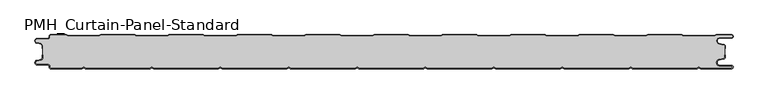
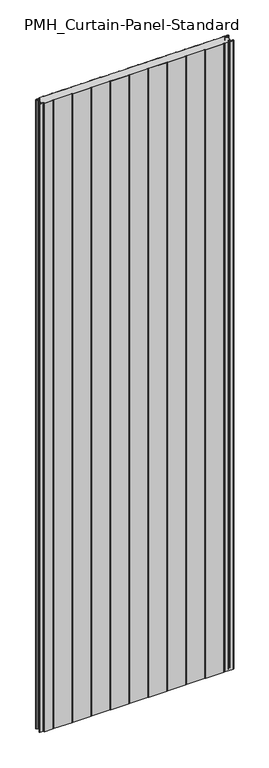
"""IFC4 building model written with IfcOpenShell, lengths in millimetres: plate geometry, PMH_Curtain-Panel-Standard : ACH_PMH_Acoustic-Sectioning-Panel_50M."""

from ifc_helpers import new_model, si_unit, point, frame_2d, origin, origin_with_axes, place, context, project, spatial, polyline, circle_curve, trimmed, segment, composite_curve, outline, extrude, source, transform, mapped, element, save


def pmh_curtain_panel_standard_05a95652(model_context):
    return source(origin(), model_context, "Body", "SweptSolid", [
        extrude(outline(composite_curve([segment(polyline([(-500.0, 15.878557), (-500.0, 20.0), (-499.2, 20.0), (-499.2, 15.878557)]), True, "CONTINUOUS"), segment(trimmed(circle_curve(frame_2d((-502.0, 15.878557)), 2.8), [point((-499.2, 15.878557))], [point((-501.370137, 13.1503208))], False, "CARTESIAN"), True, "CONTINUOUS"), segment(polyline([(-501.370137, 13.1503208), (-507.529863, 11.728236)]), True, "CONTINUOUS"), segment(trimmed(circle_curve(frame_2d((-506.9, 9.0)), 2.8), [point((-507.529863, 11.728236))], [point((-506.9, 6.2))], True, "CARTESIAN"), True, "CONTINUOUS"), segment(polyline([(-506.9, 6.2), (-491.4, 6.2)]), True, "CONTINUOUS"), segment(trimmed(circle_curve(frame_2d((-491.4, 3.4)), 2.8), [point((-491.4, 6.2))], [point((-488.6, 3.4))], False, "CARTESIAN"), True, "CONTINUOUS"), segment(polyline([(-488.6, 3.4), (-488.6, 2.0)]), True, "CONTINUOUS"), segment(trimmed(circle_curve(frame_2d((-487.4, 2.0)), 1.2), [point((-488.6, 2.0))], [point((-487.4, 0.8))], True, "CARTESIAN"), True, "CONTINUOUS"), segment(polyline([(-487.4, 0.8), (-442.3143588, 0.8), (-439.4, 2.482606), (-436.4856412, 0.8), (-342.3143588, 0.8), (-339.4, 2.482606), (-336.4856412, 0.8), (-242.3143588, 0.8), (-239.4, 2.482606), (-236.4856412, 0.8), (-142.3143588, 0.8), (-139.4, 2.482606), (-136.4856412, 0.8), (-42.3143588, 0.8), (-39.4, 2.482606), (-36.4856412, 0.8), (57.6856412, 0.8), (60.6, 2.482606), (63.5143588, 0.8), (157.6856412, 0.8), (160.6, 2.482606), (163.5143588, 0.8), (257.6856412, 0.8), (260.6, 2.482606), (263.5143588, 0.8), (357.6856412, 0.8), (360.6, 2.482606), (363.5143588, 0.8), (457.6856412, 0.8), (460.6, 2.482606), (463.5143588, 0.8), (508.1, 0.8)]), True, "CONTINUOUS"), segment(trimmed(circle_curve(frame_2d((508.1, 2.5)), 1.7), [point((508.1, 0.8))], [point((508.1, 4.2))], True, "CARTESIAN"), True, "CONTINUOUS"), segment(polyline([(508.1, 4.2), (491.1, 4.2)]), True, "CONTINUOUS"), segment(trimmed(circle_curve(frame_2d((491.1, 9.0)), 4.8), [point((491.1, 4.2))], [point((490.2664884, 13.7270771))], False, "CARTESIAN"), True, "CONTINUOUS"), segment(polyline([(490.2664884, 13.7270771), (496.7125669, 14.8636953)]), True, "CONTINUOUS"), segment(trimmed(circle_curve(frame_2d((496.4, 16.6363492)), 1.8), [point((496.7125669, 14.8636953))], [point((498.2, 16.6363492))], True, "CARTESIAN"), True, "CONTINUOUS"), segment(polyline([(498.2, 16.6363492), (498.2, 20.0), (499.0, 20.0), (499.0, 16.6363492)]), True, "CONTINUOUS"), segment(trimmed(circle_curve(frame_2d((496.4, 16.6363492)), 2.6), [point((499.0, 16.6363492))], [point((496.8514855, 14.0758491))], False, "CARTESIAN"), True, "CONTINUOUS"), segment(polyline([(496.8514855, 14.0758491), (490.405407, 12.939231)]), True, "CONTINUOUS"), segment(trimmed(circle_curve(frame_2d((491.1, 9.0)), 4.0), [point((490.405407, 12.939231))], [point((491.1, 5.0))], True, "CARTESIAN"), True, "CONTINUOUS"), segment(polyline([(491.1, 5.0), (508.1, 5.0)]), True, "CONTINUOUS"), segment(trimmed(circle_curve(frame_2d((508.1, 2.5)), 2.5), [point((508.1, 5.0))], [point((508.1, 0.0))], False, "CARTESIAN"), True, "CONTINUOUS"), segment(polyline([(508.1, 0.0), (463.2999995, 0.0), (460.6, 1.5588455), (457.9000005, 0.0), (363.2999995, 0.0), (360.6, 1.5588455), (357.9000005, 0.0), (263.2999995, 0.0), (260.6, 1.5588455), (257.9000005, 0.0), (163.2999995, 0.0), (160.6, 1.5588455), (157.9000005, 0.0), (63.2999995, 0.0), (60.6, 1.5588455), (57.9000005, 0.0), (-36.7000005, 0.0), (-39.4, 1.5588455), (-42.0999995, 0.0), (-136.7000005, 0.0), (-139.4, 1.5588455), (-142.0999995, 0.0), (-236.7000005, 0.0), (-239.4, 1.5588455), (-242.0999995, 0.0), (-336.7000005, 0.0), (-339.4, 1.5588455), (-342.0999995, 0.0), (-436.7000005, 0.0), (-439.4, 1.5588455), (-442.0999995, 0.0), (-487.4, 0.0)]), True, "CONTINUOUS"), segment(trimmed(circle_curve(frame_2d((-487.4, 2.0)), 2.0), [point((-487.4, 0.0))], [point((-489.4, 2.0))], False, "CARTESIAN"), True, "CONTINUOUS"), segment(polyline([(-489.4, 2.0), (-489.4, 3.4)]), True, "CONTINUOUS"), segment(trimmed(circle_curve(frame_2d((-491.4, 3.4)), 2.0), [point((-489.4, 3.4))], [point((-491.4, 5.4))], True, "CARTESIAN"), True, "CONTINUOUS"), segment(polyline([(-491.4, 5.4), (-506.9, 5.4)]), True, "CONTINUOUS"), segment(trimmed(circle_curve(frame_2d((-506.9, 9.0)), 3.6), [point((-506.9, 5.4))], [point((-507.7098239, 12.5077322))], False, "CARTESIAN"), True, "CONTINUOUS"), segment(polyline([(-507.7098239, 12.5077322), (-501.5500979, 13.929817)]), True, "CONTINUOUS"), segment(trimmed(circle_curve(frame_2d((-502.0, 15.878557)), 2.0), [point((-501.5500979, 13.929817))], [point((-500.0, 15.878557))], True, "CARTESIAN"), True, "CONTINUOUS")], self_intersect=False)), origin_with_axes(), (0.0, 0.0, 1.0), 3500.0),
        extrude(outline(composite_curve([segment(trimmed(circle_curve(frame_2d((-502.0, 34.121443)), 2.8), [point((-499.2, 34.121443))], [point((-501.370137, 36.8496792))], True, "CARTESIAN"), True, "CONTINUOUS"), segment(polyline([(-501.370137, 36.8496792), (-507.529863, 38.271764)]), True, "CONTINUOUS"), segment(trimmed(circle_curve(frame_2d((-506.9, 41.0)), 2.7999998), [point((-507.529863, 38.271764))], [point((-506.9, 43.7999998))], False, "CARTESIAN"), True, "CONTINUOUS"), segment(polyline([(-506.9, 43.7999998), (-491.4, 43.7999998)]), True, "CONTINUOUS"), segment(trimmed(circle_curve(frame_2d((-491.4, 46.5999998)), 2.8), [point((-491.4, 43.7999998))], [point((-488.6, 46.5999998))], True, "CARTESIAN"), True, "CONTINUOUS"), segment(polyline([(-488.6, 46.5999998), (-488.6, 48.0)]), True, "CONTINUOUS"), segment(trimmed(circle_curve(frame_2d((-487.4, 48.0)), 1.2), [point((-488.6, 48.0))], [point((-487.4, 49.2))], False, "CARTESIAN"), True, "CONTINUOUS"), segment(polyline([(-487.4, 49.2), (-464.6143592, 49.2), (-462.0162816, 47.7), (-416.7875654, 47.7), (-414.1894878, 49.2), (-364.6143592, 49.2), (-362.0162816, 47.7), (-316.7875654, 47.7), (-314.1894878, 49.2), (-264.6143592, 49.2), (-262.0162816, 47.7), (-216.7875654, 47.7), (-214.1894878, 49.2), (-164.6143592, 49.2), (-162.0162816, 47.7), (-116.7875654, 47.7), (-114.1894878, 49.2), (-64.6143592, 49.2), (-62.0162816, 47.7), (-16.7875654, 47.7), (-14.1894878, 49.2), (35.3856408, 49.2), (37.9837184, 47.7), (83.2124346, 47.7), (85.8105122, 49.2), (135.3856408, 49.2), (137.9837184, 47.7), (183.2124346, 47.7), (185.8105122, 49.2), (235.3856408, 49.2), (237.9837184, 47.7), (283.2124346, 47.7), (285.8105122, 49.2), (335.3856408, 49.2), (337.9837184, 47.7), (383.2124346, 47.7), (385.8105122, 49.2), (435.3856408, 49.2), (437.9837184, 47.7), (483.2124346, 47.7), (485.8105122, 49.2), (508.1, 49.2)]), True, "CONTINUOUS"), segment(trimmed(circle_curve(frame_2d((508.1, 47.5)), 1.7), [point((508.1, 49.2))], [point((508.1, 45.8000001))], False, "CARTESIAN"), True, "CONTINUOUS"), segment(polyline([(508.1, 45.8000001), (491.1, 45.8000001)]), True, "CONTINUOUS"), segment(trimmed(circle_curve(frame_2d((491.1, 41.0000002)), 4.7999999), [point((491.1, 45.8000001))], [point((490.266489, 36.272923))], True, "CARTESIAN"), True, "CONTINUOUS"), segment(polyline([(490.266489, 36.272923), (496.7125666, 35.1363059)]), True, "CONTINUOUS"), segment(trimmed(circle_curve(frame_2d((496.4, 33.363652)), 1.8), [point((496.7125666, 35.1363059))], [point((498.2, 33.363652))], False, "CARTESIAN"), True, "CONTINUOUS"), segment(polyline([(498.2, 33.363652), (498.2, 16.6363492)]), True, "CONTINUOUS"), segment(trimmed(circle_curve(frame_2d((496.4, 16.6363492)), 1.8), [point((498.2, 16.6363492))], [point((496.7125668, 14.8636953))], False, "CARTESIAN"), True, "CONTINUOUS"), segment(polyline([(496.7125668, 14.8636953), (490.2664883, 13.7270771)]), True, "CONTINUOUS"), segment(trimmed(circle_curve(frame_2d((491.1, 9.0)), 4.8), [point((490.2664883, 13.7270771))], [point((491.1, 4.2))], True, "CARTESIAN"), True, "CONTINUOUS"), segment(polyline([(491.1, 4.2), (508.1, 4.2)]), True, "CONTINUOUS"), segment(trimmed(circle_curve(frame_2d((508.1, 2.5)), 1.7), [point((508.1, 4.2))], [point((508.1, 0.8))], False, "CARTESIAN"), True, "CONTINUOUS"), segment(polyline([(508.1, 0.8), (463.5143587, 0.8), (460.5999999, 2.482606), (457.6856411, 0.8), (363.5143588, 0.8), (360.5999999, 2.482606), (357.6856411, 0.8), (263.5143588, 0.8), (260.5999999, 2.482606), (257.6856411, 0.8), (163.5143588, 0.8), (160.5999999, 2.482606), (157.6856411, 0.8), (63.5143588, 0.8), (60.5999999, 2.482606), (57.6856411, 0.8), (-36.4856412, 0.8), (-39.4000001, 2.482606), (-42.3143589, 0.8), (-136.4856412, 0.8), (-139.4000001, 2.482606), (-142.3143589, 0.8), (-236.4856412, 0.8), (-239.4000001, 2.482606), (-242.3143589, 0.8), (-336.4856412, 0.8), (-339.4000001, 2.482606), (-342.3143589, 0.8), (-436.4856412, 0.8), (-439.4000001, 2.482606), (-442.3143589, 0.8), (-487.4000001, 0.8)]), True, "CONTINUOUS"), segment(trimmed(circle_curve(frame_2d((-487.4000001, 2.0)), 1.2), [point((-487.4000001, 0.8))], [point((-488.6000001, 2.0))], False, "CARTESIAN"), True, "CONTINUOUS"), segment(polyline([(-488.6000001, 2.0), (-488.6000001, 3.4)]), True, "CONTINUOUS"), segment(trimmed(circle_curve(frame_2d((-491.4000001, 3.4)), 2.8), [point((-488.6000001, 3.4))], [point((-491.4000001, 6.2))], True, "CARTESIAN"), True, "CONTINUOUS"), segment(polyline([(-491.4000001, 6.2), (-506.9, 6.2)]), True, "CONTINUOUS"), segment(trimmed(circle_curve(frame_2d((-506.9, 9.0)), 2.8), [point((-506.9, 6.2))], [point((-507.5298631, 11.7282362))], False, "CARTESIAN"), True, "CONTINUOUS"), segment(polyline([(-507.5298631, 11.7282362), (-501.370137, 13.1503212)]), True, "CONTINUOUS"), segment(trimmed(circle_curve(frame_2d((-502.0, 15.8785573)), 2.8), [point((-501.370137, 13.1503212))], [point((-499.2, 15.8785573))], True, "CARTESIAN"), True, "CONTINUOUS"), segment(polyline([(-499.2, 15.8785573), (-499.2, 34.121443)]), True, "CONTINUOUS")], self_intersect=False)), origin_with_axes(), (0.0, 0.0, 1.0), 3500.0),
        extrude(outline(composite_curve([segment(polyline([(-487.4, 50.0), (-464.3999999, 50.0), (-461.8019223, 48.5), (-417.0019247, 48.5), (-414.4038471, 50.0), (-364.3999999, 50.0), (-361.8019223, 48.5), (-317.0019247, 48.5), (-314.4038471, 50.0), (-264.3999999, 50.0), (-261.8019223, 48.5), (-217.0019247, 48.5), (-214.4038471, 50.0), (-164.3999999, 50.0), (-161.8019223, 48.5), (-117.0019247, 48.5), (-114.4038471, 50.0), (-64.3999999, 50.0), (-61.8019223, 48.5), (-17.0019247, 48.5), (-14.4038471, 50.0), (35.6000001, 50.0), (38.1980777, 48.5), (82.9980753, 48.5), (85.5961529, 50.0), (135.6000001, 50.0), (138.1980777, 48.5), (182.9980753, 48.5), (185.5961529, 50.0), (235.6000001, 50.0), (238.1980777, 48.5), (282.9980753, 48.5), (285.5961529, 50.0), (335.6000001, 50.0), (338.1980777, 48.5), (382.9980753, 48.5), (385.5961529, 50.0), (435.6000001, 50.0), (438.1980777, 48.5), (482.9980753, 48.5), (485.5961529, 50.0), (508.1, 50.0)]), True, "CONTINUOUS"), segment(trimmed(circle_curve(frame_2d((508.1, 47.5)), 2.5), [point((508.1, 50.0))], [point((508.1, 45.0))], False, "CARTESIAN"), True, "CONTINUOUS"), segment(polyline([(508.1, 45.0), (491.1, 45.0)]), True, "CONTINUOUS"), segment(trimmed(circle_curve(frame_2d((491.1, 41.0)), 4.0), [point((491.1, 45.0))], [point((490.4054075, 37.060769))], True, "CARTESIAN"), True, "CONTINUOUS"), segment(polyline([(490.4054075, 37.060769), (496.8514851, 35.924152)]), True, "CONTINUOUS"), segment(trimmed(circle_curve(frame_2d((496.4, 33.363652)), 2.6), [point((496.8514851, 35.924152))], [point((499.0, 33.363652))], False, "CARTESIAN"), True, "CONTINUOUS"), segment(polyline([(499.0, 33.363652), (499.0, 30.0), (498.2, 30.0), (498.2, 33.363652)]), True, "CONTINUOUS"), segment(trimmed(circle_curve(frame_2d((496.4, 33.363652)), 1.8), [point((498.2, 33.363652))], [point((496.7125666, 35.136306))], True, "CARTESIAN"), True, "CONTINUOUS"), segment(polyline([(496.7125666, 35.136306), (490.266489, 36.2729229)]), True, "CONTINUOUS"), segment(trimmed(circle_curve(frame_2d((491.1, 41.0)), 4.8), [point((490.266489, 36.2729229))], [point((491.1, 45.8))], False, "CARTESIAN"), True, "CONTINUOUS"), segment(polyline([(491.1, 45.8), (508.1, 45.8)]), True, "CONTINUOUS"), segment(trimmed(circle_curve(frame_2d((508.1, 47.5)), 1.7), [point((508.1, 45.8))], [point((508.1, 49.2))], True, "CARTESIAN"), True, "CONTINUOUS"), segment(polyline([(508.1, 49.2), (485.8105122, 49.2), (483.2124346, 47.7), (437.9837184, 47.7), (435.3856408, 49.2), (385.8105122, 49.2), (383.2124346, 47.7), (337.9837184, 47.7), (335.3856408, 49.2), (285.8105122, 49.2), (283.2124346, 47.7), (237.9837184, 47.7), (235.3856408, 49.2), (185.8105122, 49.2), (183.2124346, 47.7), (137.9837184, 47.7), (135.3856408, 49.2), (85.8105122, 49.2), (83.2124346, 47.7), (37.9837184, 47.7), (35.3856408, 49.2), (-14.1894878, 49.2), (-16.7875654, 47.7), (-62.0162816, 47.7), (-64.6143592, 49.2), (-114.1894878, 49.2), (-116.7875654, 47.7), (-162.0162816, 47.7), (-164.6143592, 49.2), (-214.1894878, 49.2), (-216.7875654, 47.7), (-262.0162816, 47.7), (-264.6143592, 49.2), (-314.1894878, 49.2), (-316.7875654, 47.7), (-362.0162816, 47.7), (-364.6143592, 49.2), (-414.1894878, 49.2), (-416.7875654, 47.7), (-462.0162816, 47.7), (-464.6143592, 49.2), (-487.4, 49.2)]), True, "CONTINUOUS"), segment(trimmed(circle_curve(frame_2d((-487.4, 48.0)), 1.2), [point((-487.4, 49.2))], [point((-488.6, 48.0))], True, "CARTESIAN"), True, "CONTINUOUS"), segment(polyline([(-488.6, 48.0), (-488.6, 46.6)]), True, "CONTINUOUS"), segment(trimmed(circle_curve(frame_2d((-491.4, 46.6)), 2.8), [point((-488.6, 46.6))], [point((-491.4, 43.8))], False, "CARTESIAN"), True, "CONTINUOUS"), segment(polyline([(-491.4, 43.8), (-506.9, 43.8)]), True, "CONTINUOUS"), segment(trimmed(circle_curve(frame_2d((-506.9, 41.0)), 2.8), [point((-506.9, 43.8))], [point((-507.529863, 38.2717638))], True, "CARTESIAN"), True, "CONTINUOUS"), segment(polyline([(-507.529863, 38.2717638), (-501.370137, 36.849679)]), True, "CONTINUOUS"), segment(trimmed(circle_curve(frame_2d((-502.0, 34.121443)), 2.8), [point((-501.370137, 36.849679))], [point((-499.2, 34.121443))], False, "CARTESIAN"), True, "CONTINUOUS"), segment(polyline([(-499.2, 34.121443), (-499.2, 30.0), (-500.0, 30.0), (-500.0, 34.121443)]), True, "CONTINUOUS"), segment(trimmed(circle_curve(frame_2d((-502.0, 34.121443)), 2.0), [point((-500.0, 34.121443))], [point((-501.5500978, 36.0701831))], True, "CARTESIAN"), True, "CONTINUOUS"), segment(polyline([(-501.5500978, 36.0701831), (-507.7098239, 37.492268)]), True, "CONTINUOUS"), segment(trimmed(circle_curve(frame_2d((-506.9, 41.0)), 3.6), [point((-507.7098239, 37.492268))], [point((-506.9, 44.6))], False, "CARTESIAN"), True, "CONTINUOUS"), segment(polyline([(-506.9, 44.6), (-491.4, 44.6)]), True, "CONTINUOUS"), segment(trimmed(circle_curve(frame_2d((-491.4, 46.6)), 2.0), [point((-491.4, 44.6))], [point((-489.4, 46.6))], True, "CARTESIAN"), True, "CONTINUOUS"), segment(polyline([(-489.4, 46.6), (-489.4, 48.0)]), True, "CONTINUOUS"), segment(trimmed(circle_curve(frame_2d((-487.4, 48.0)), 2.0), [point((-489.4, 48.0))], [point((-487.4, 50.0))], False, "CARTESIAN"), True, "CONTINUOUS")], self_intersect=False)), origin_with_axes(), (0.0, 0.0, 1.0), 3500.0),
    ])


if __name__ == "__main__":
    model = new_model("IFC4")
    model_context = context("Model", 3, world=origin())
    ifc_project = project(units=[si_unit("LENGTHUNIT", "METRE", prefix="MILLI")], contexts=[model_context])
    site = spatial("IfcSite", under=ifc_project)
    building = spatial("IfcBuilding", under=site)
    placement = place(None, origin())
    pmh_curtain_panel_standard_shape = pmh_curtain_panel_standard_05a95652(model_context)
    element("IfcPlate", 1, ObjectType="PMH_Curtain-Panel-Standard : ACH_PMH_Acoustic-Sectioning-Panel_50M", at=placement, inside=building, context=model_context, shape_type="MappedRepresentation", body=[
        mapped(pmh_curtain_panel_standard_shape, transform((0.0, 0.0, 0.0), x_axis=(1.0, 0.0, 0.0), y_axis=(0.0, 1.0, 0.0), z_axis=(0.0, 0.0, 1.0))),
    ])
    save(model, "model.ifc")
